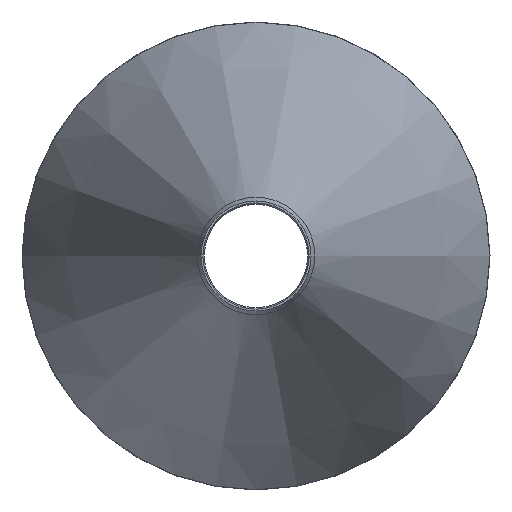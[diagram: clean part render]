
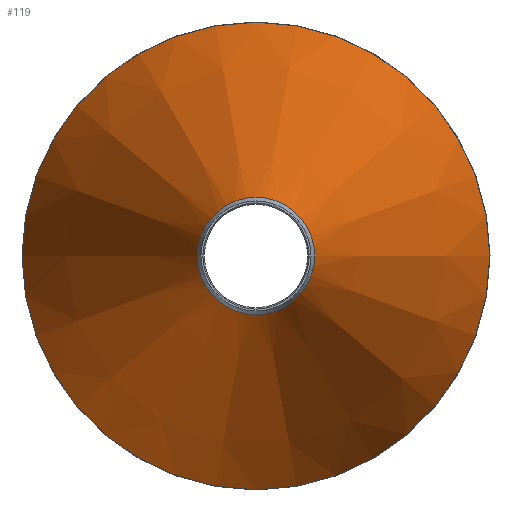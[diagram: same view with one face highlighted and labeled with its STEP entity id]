
A CAD part, front view. The second image highlights one B-rep face of the part: STEP entity #119.
In plain terms, the highlighted conical face has half-angle 20.588 degrees and reference radius 0.273 mm.
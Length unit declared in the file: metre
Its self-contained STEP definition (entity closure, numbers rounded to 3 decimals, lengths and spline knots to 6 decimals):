
#16=CONICAL_SURFACE('',#150,0.000273,0.359);
#34=ORIENTED_EDGE('',*,*,#48,.T.);
#35=ORIENTED_EDGE('',*,*,#47,.T.);
#47=EDGE_CURVE('',#57,#57,#67,.T.);
#48=EDGE_CURVE('',#58,#58,#68,.T.);
#57=VERTEX_POINT('',#220);
#58=VERTEX_POINT('',#223);
#67=CIRCLE('',#149,0.000273);
#68=CIRCLE('',#151,0.001085);
#84=EDGE_LOOP('',(#34));
#85=EDGE_LOOP('',(#35));
#104=FACE_BOUND('',#84,.T.);
#105=FACE_BOUND('',#85,.T.);
#119=ADVANCED_FACE('',(#104,#105),#16,.T.);
#149=AXIS2_PLACEMENT_3D('',#219,#185,#186);
#150=AXIS2_PLACEMENT_3D('',#221,#187,#188);
#151=AXIS2_PLACEMENT_3D('',#222,#189,#190);
#185=DIRECTION('',(0.,1.,0.));
#186=DIRECTION('',(1.,0.,0.));
#187=DIRECTION('',(0.,1.,0.));
#188=DIRECTION('',(1.,0.,0.));
#189=DIRECTION('',(0.,-1.,0.));
#190=DIRECTION('',(-1.,0.,0.));
#219=CARTESIAN_POINT('',(-0.092686,-0.071042,-0.025701));
#220=CARTESIAN_POINT('',(-0.092413,-0.071042,-0.025701));
#221=CARTESIAN_POINT('',(-0.092686,-0.071042,-0.025701));
#222=CARTESIAN_POINT('',(-0.092686,-0.068878,-0.025701));
#223=CARTESIAN_POINT('',(-0.093771,-0.068878,-0.025701));
